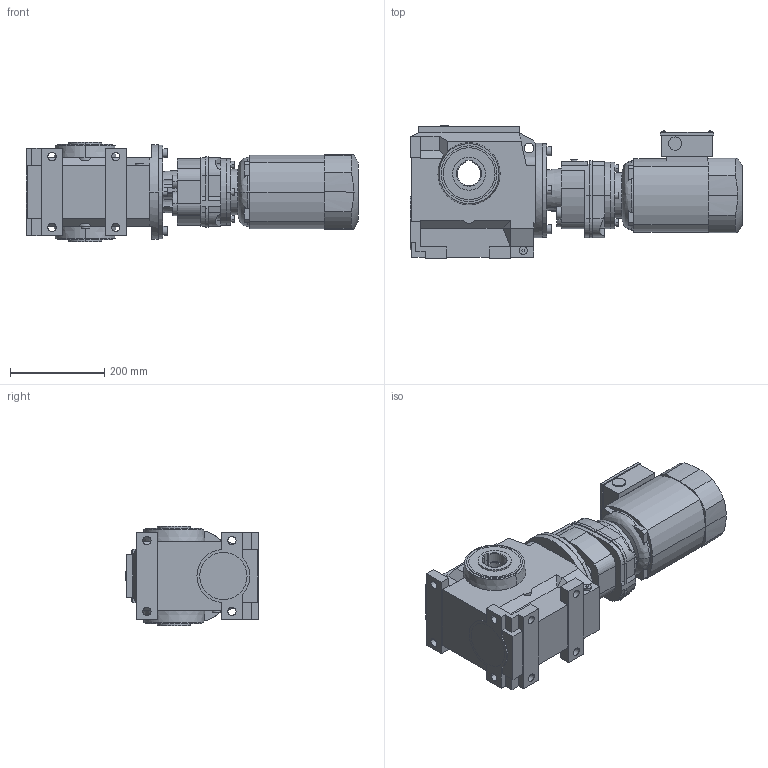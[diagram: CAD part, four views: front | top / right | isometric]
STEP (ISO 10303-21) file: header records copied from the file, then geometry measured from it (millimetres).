
FILE_DESCRIPTION(('STEP AP214'),'1');
FILE_NAME('STEP-File.stp','2018-01-01T00:00:00',(' '),('KEB'),' ','KEB-DRIVE',' ');
FILE_SCHEMA(('AUTOMOTIVE_DESIGN { 1 0 10303 214 1 1 1 1 }'));
Length unit declared in the file: millimetre
Products named in the file (12): s4a; we_hw_50; weh_slno; fp2-c4; g2b; cm2; dm90l_kkn; kk08; PLUG_M25; ndm90; S42G22A DM80GD4§CAD13
Assembly tree (11 placements, depth 2):
  S42G22A DM80GD4§CAD13
    s4a
    we_hw_50
    weh_slno
    weh_slno
    fp2-c4
    g2b
    cm2
    dm90l_kkn
    kk08
    PLUG_M25
    ndm90
Bounding box: 703 x 283 x 210 mm (x, y, z)
Volume: 19262915.6 mm3; surface area: 1043585.8 mm2
Topology: 11 solids, 11 shells, 571 faces, 1624 edges, 1213 vertices
Faces by surface type: plane 366, cylinder 139, cone 58, extrusion 4, torus 2, revolution 2
Entity records: 21785 total; most frequent: CARTESIAN_POINT 7103, ORIENTED_EDGE 3248, DIRECTION 2447, EDGE_CURVE 1624, VERTEX_POINT 1213, VECTOR 1136, LINE 1132, EDGE_LOOP 735
